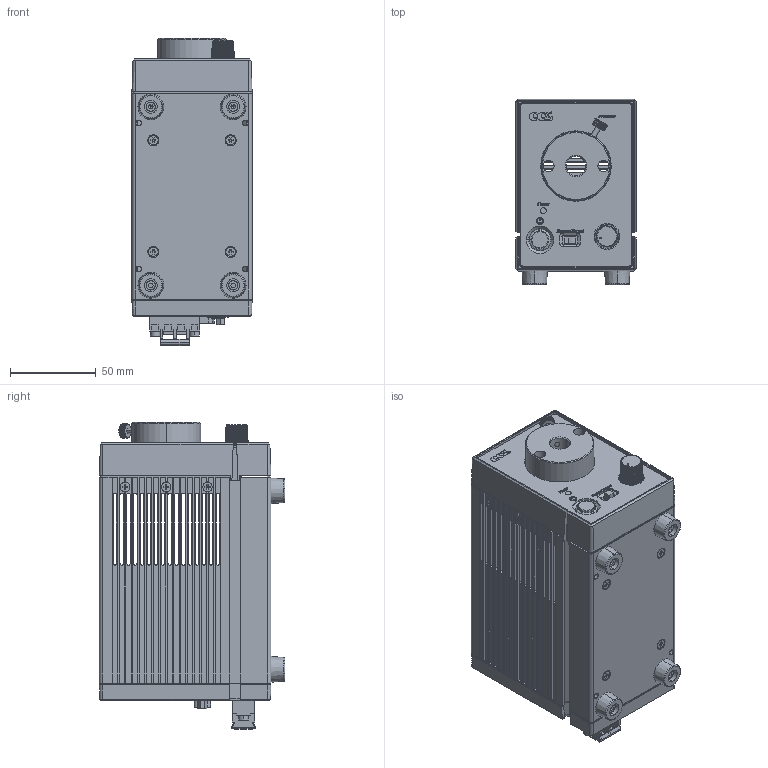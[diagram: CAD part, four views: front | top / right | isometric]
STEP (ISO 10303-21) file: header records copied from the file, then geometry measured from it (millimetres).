
FILE_DESCRIPTION (( 'STEP AP203' ), '1' );
FILE_NAME ('DJ1.STEP', '2021-12-27T05:48:21', ( 'CCS' ), ( 'シーシーエス株式会社' ), 'SwSTEP 2.0', 'SolidWorks 2017', '' );
FILE_SCHEMA (( 'CONFIG_CONTROL_DESIGN' ));
Length unit declared in the file: millimetre
Products named in the file (1): DJ1
Bounding box: 70 x 108 x 178.88 mm (x, y, z)
Surface area: 133277 mm2 (no closed solid volume)
Topology: 0 solids, 94 shells, 1755 faces, 6921 edges, 5149 vertices
Faces by surface type: plane 1034, cylinder 330, cone 317, torus 30, sphere 30, bspline 14
Entity records: 78888 total; most frequent: CARTESIAN_POINT 24146, ORIENTED_EDGE 10698, DIRECTION 10455, EDGE_CURVE 6843, VERTEX_POINT 5119, LINE 3845, VECTOR 3845, AXIS2_PLACEMENT_3D 3305
